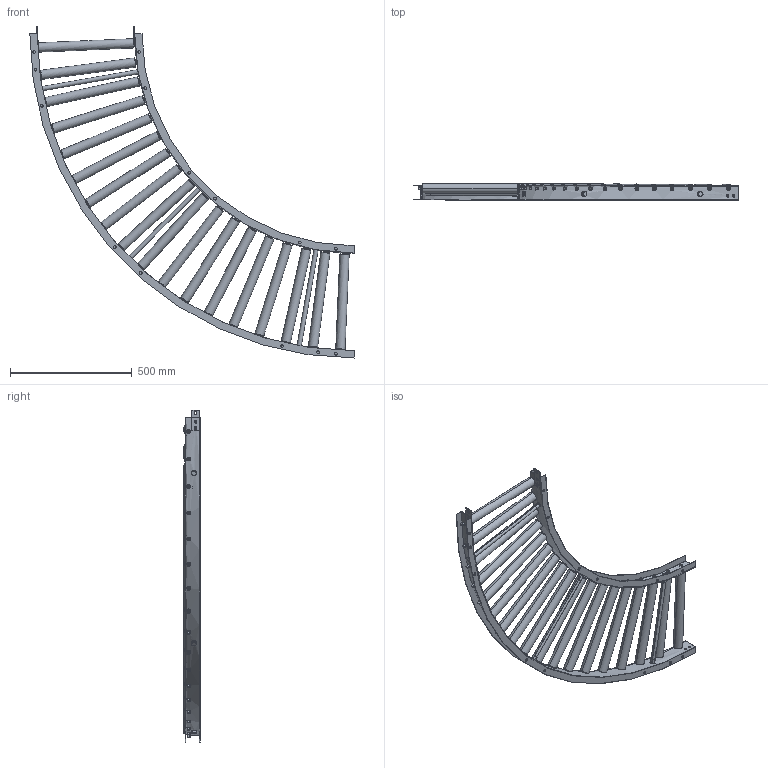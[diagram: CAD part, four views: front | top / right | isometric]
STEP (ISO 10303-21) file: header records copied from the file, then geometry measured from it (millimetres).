
FILE_DESCRIPTION (( 'STEP AP203' ), '1' );
FILE_NAME ('S-3812P_C.step', '2024-03-02T05:08:56', ( '' ), ( '' ), 'SwSTEP 2.0', 'SolidWorks 2023', '' );
FILE_SCHEMA (( 'CONFIG_CONTROL_DESIGN' ));
Length unit declared in the file: millimetre
Products named in the file (1): S-3812P_C
Bounding box: 1330 x 66.05 x 1361.57 mm (x, y, z)
Volume: 8604997.6 mm3; surface area: 2614039.3 mm2
Topology: 55 solids, 55 shells, 1102 faces, 2742 edges, 1792 vertices
Faces by surface type: plane 588, cylinder 406, torus 72, cone 36
Entity records: 38167 total; most frequent: CARTESIAN_POINT 11033, DIRECTION 5732, ORIENTED_EDGE 5484, EDGE_CURVE 2742, AXIS2_PLACEMENT_3D 2183, VERTEX_POINT 1792, LINE 1366, VECTOR 1366
